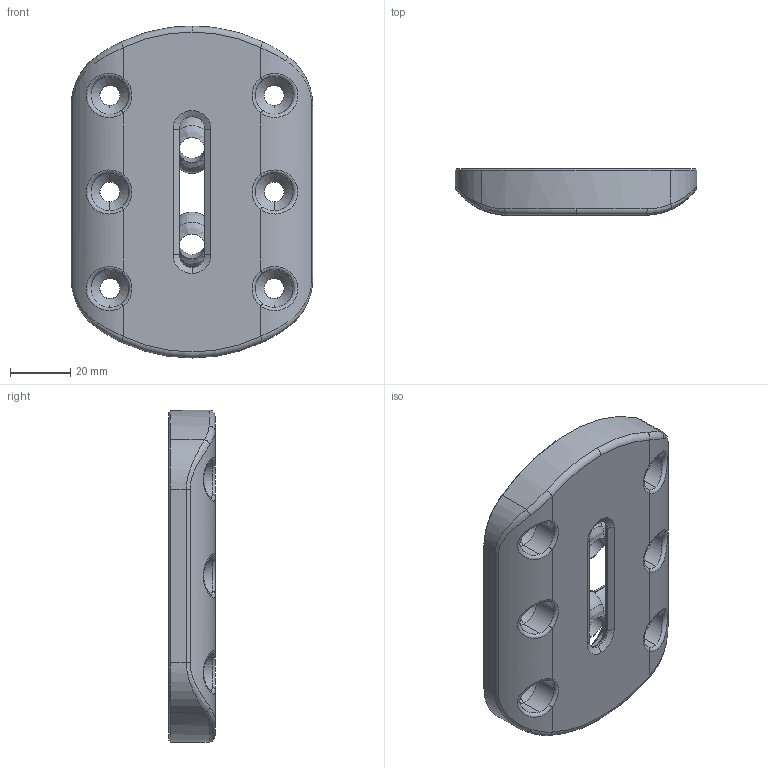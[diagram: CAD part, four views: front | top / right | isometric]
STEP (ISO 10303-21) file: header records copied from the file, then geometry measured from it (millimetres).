
FILE_DESCRIPTION (( 'STEP AP214' ), '1' );
FILE_NAME ('06.11.210 Conan.STEP', '2020-11-20T12:55:10', ( '' ), ( '' ), 'SwSTEP 2.0', 'SolidWorks 2019', '' );
FILE_SCHEMA (( 'AUTOMOTIVE_DESIGN' ));
Length unit declared in the file: millimetre
Products named in the file (1): 06.11.210 Conan
Bounding box: 80 x 15.3 x 110 mm (x, y, z)
Surface area: 31530.6 mm2 (no closed solid volume)
Topology: 0 solids, 3 shells, 930 faces, 2770 edges, 1679 vertices
Faces by surface type: bspline 394, torus 172, cylinder 160, plane 100, cone 88, sphere 16
Entity records: 62086 total; most frequent: CARTESIAN_POINT 31290, ORIENTED_EDGE 4726, DIRECTION 3437, EDGE_CURVE 2686, VERTEX_POINT 1679, AXIS2_PLACEMENT_3D 1470, B_SPLINE_CURVE_WITH_KNOTS 1192, EDGE_LOOP 968
